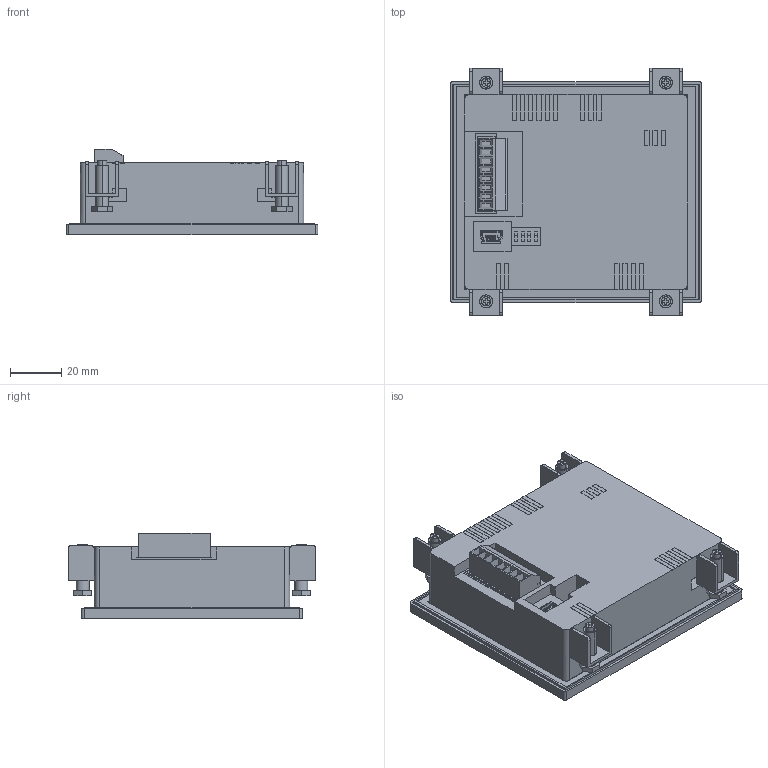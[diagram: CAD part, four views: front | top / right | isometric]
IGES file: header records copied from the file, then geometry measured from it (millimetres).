
Start section: SolidWorks IGES file using analytic representation for surfaces
Global section: file name: C:\catalog\aig03mq03de\aig03mq03de.IGS; native system: SolidWorks 2010; preprocessor: SolidWorks 2010; author: ek1676; date: 130408.163324; units: millimetre
Bounding box: 98 x 96.2 x 33.4 mm (x, y, z)
Surface area: 41864.6 mm2 (no closed solid volume)
Topology: 0 solids, 0 shells, 618 faces, 4604 edges, 4604 vertices
Faces by surface type: bspline 554, revolution 64
